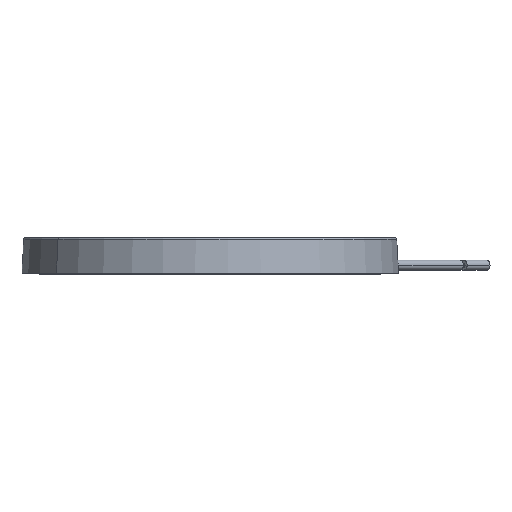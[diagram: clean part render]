
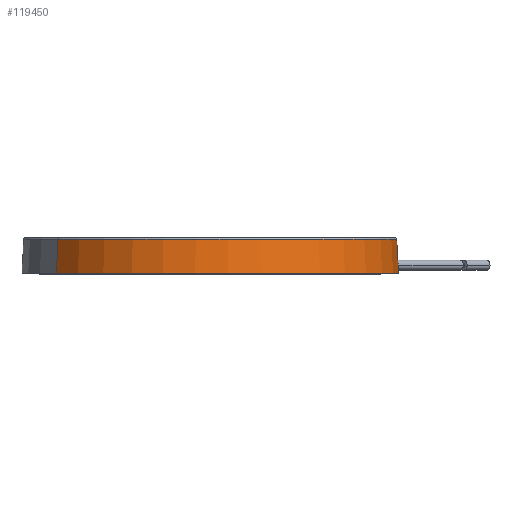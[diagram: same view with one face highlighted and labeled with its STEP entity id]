
A CAD part, front view. The second image highlights one B-rep face of the part: STEP entity #119450.
In plain terms, the highlighted conical face has half-angle 3 degrees and reference radius 35 mm.
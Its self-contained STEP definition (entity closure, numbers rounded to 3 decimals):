
#113010=CARTESIAN_POINT('',(10.415,-2.507,
108.95));
#113020=DIRECTION('',(0.,0.,
-1.));
#113030=DIRECTION('',(-0.857,-0.515,
0.));
#113040=AXIS2_PLACEMENT_3D('',#113010,#113020,#113030);
#113050=CIRCLE('',#113040,35.);
#113060=CARTESIAN_POINT('',(-19.587,-20.531,
108.95));
#113070=VERTEX_POINT('',#113060);
#113080=CARTESIAN_POINT('',(40.417,15.518,
108.95));
#113090=VERTEX_POINT('',#113080);
#113120=EDGE_CURVE('',#113090,#113070,#113050,.T.);
#117350=CARTESIAN_POINT('',(40.417,15.518,
108.95));
#117360=DIRECTION('',(0.045,0.027,
0.999));
#117370=VECTOR('',#117360,668.756);
#117380=LINE('',#117350,#117370);
#117390=CARTESIAN_POINT('',(40.135,15.349,
102.684));
#117400=VERTEX_POINT('',#117390);
#117410=EDGE_CURVE('',#117400,#113090,#117380,.T.);
#117440=CARTESIAN_POINT('',(-19.587,-20.531,
108.95));
#117450=DIRECTION('',(-0.045,-0.027,
0.999));
#117460=VECTOR('',#117450,668.756);
#117470=LINE('',#117440,#117460);
#117480=CARTESIAN_POINT('',(-19.305,-20.362,
102.684));
#117490=VERTEX_POINT('',#117480);
#117500=EDGE_CURVE('',#117490,#113070,#117470,.T.);
#117520=CARTESIAN_POINT('',(10.415,-2.507,
102.684));
#117530=DIRECTION('',(0.,0.,
1.));
#117540=DIRECTION('',(0.857,0.515,
0.));
#117550=AXIS2_PLACEMENT_3D('',#117520,#117530,#117540);
#117560=CIRCLE('',#117550,34.672);
#119330=CARTESIAN_POINT('',(10.415,-2.507,
108.95));
#119340=DIRECTION('',(0.,0.,
1.));
#119350=DIRECTION('',(-0.857,-0.515,
0.));
#119360=AXIS2_PLACEMENT_3D('',#119330,#119340,#119350);
#119370=CONICAL_SURFACE('',#119360,35.,0.052);
#119380=ORIENTED_EDGE('',*,*,#117410,.T.);
#119390=EDGE_CURVE('',#117490,#117400,#117560,.T.);
#119400=ORIENTED_EDGE('',*,*,#119390,.T.);
#119410=ORIENTED_EDGE('',*,*,#117500,.F.);
#119420=ORIENTED_EDGE('',*,*,#113120,.T.);
#119430=EDGE_LOOP('',(#119420,#119410,#119400,#119380));
#119440=FACE_OUTER_BOUND('',#119430,.T.);
#119450=ADVANCED_FACE('',(#119440),#119370,.T.);
